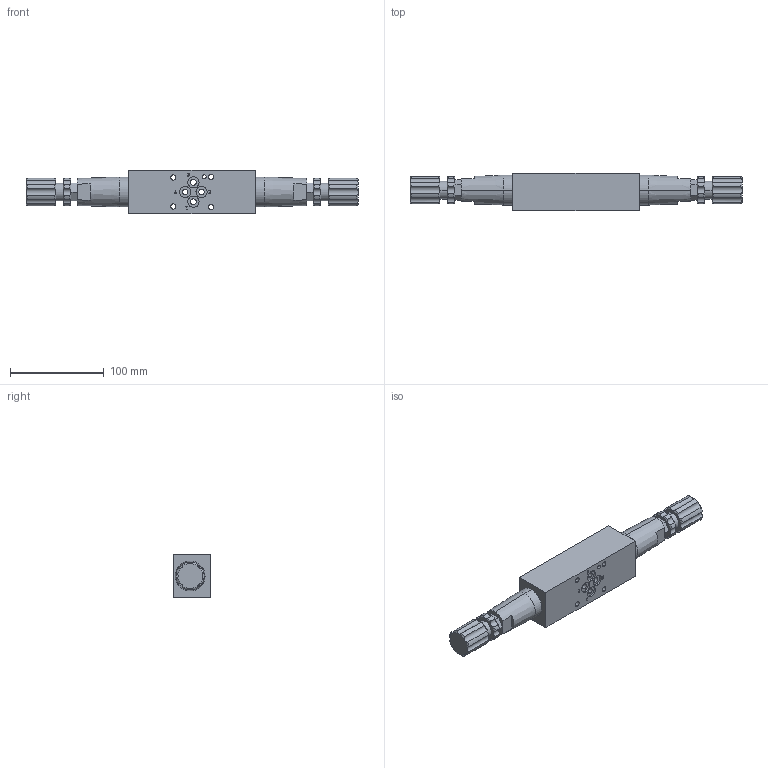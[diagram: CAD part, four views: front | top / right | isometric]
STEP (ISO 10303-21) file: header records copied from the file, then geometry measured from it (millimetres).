
FILE_DESCRIPTION (( 'STEP AP203' ), '1' );
FILE_NAME ('7DY-02W詁樓宒祛霜概.STEP', '2020-11-12T01:08:38', ( 'chen' ), ( '' ), 'SwSTEP 2.0', 'SolidWorks 2018', '' );
FILE_SCHEMA (( 'CONFIG_CONTROL_DESIGN' ));
Length unit declared in the file: millimetre
Products named in the file (1): 7DY-02W詁樓宒祛霜概
Bounding box: 355 x 40 x 46 mm (x, y, z)
Volume: 377599.8 mm3; surface area: 56036.5 mm2
Topology: 1 solids, 1 shells, 476 faces, 1316 edges, 876 vertices
Faces by surface type: plane 222, cylinder 110, bspline 76, cone 68
Entity records: 19057 total; most frequent: CARTESIAN_POINT 7321, ORIENTED_EDGE 2632, DIRECTION 2094, EDGE_CURVE 1316, VERTEX_POINT 876, VECTOR 732, LINE 732, AXIS2_PLACEMENT_3D 681
